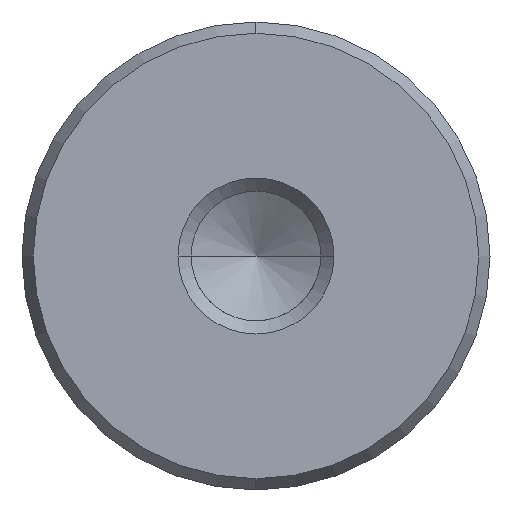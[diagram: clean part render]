
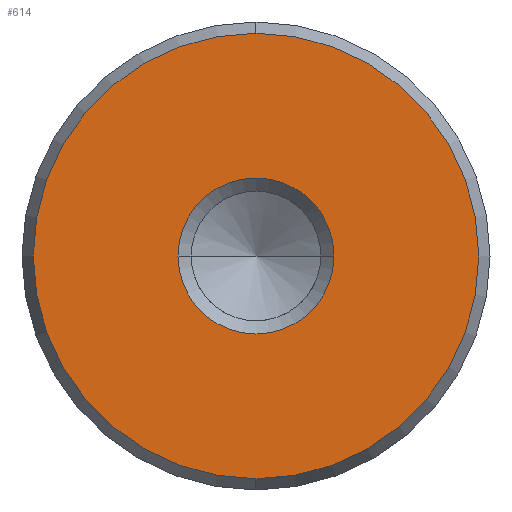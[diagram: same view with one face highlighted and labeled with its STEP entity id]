
A CAD part, left-side view. The second image highlights one B-rep face of the part: STEP entity #614.
In plain terms, the highlighted planar face has unit normal (-1, 0, 0).
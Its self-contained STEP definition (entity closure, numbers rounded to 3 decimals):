
#528=CARTESIAN_POINT('Vertex',(0.,0.,-11.423)) ;
#531=CARTESIAN_POINT('Axis2P3D Location',(0.,0.,0.)) ;
#535=CARTESIAN_POINT('Vertex',(0.,11.423,0.)) ;
#538=CARTESIAN_POINT('Axis2P3D Location',(0.,0.,0.)) ;
#542=CARTESIAN_POINT('Vertex',(0.,0.,11.423)) ;
#564=CARTESIAN_POINT('Axis2P3D Location',(0.,0.,0.)) ;
#568=CARTESIAN_POINT('Vertex',(0.,-11.423,0.)) ;
#571=CARTESIAN_POINT('Axis2P3D Location',(0.,0.,0.)) ;
#585=CARTESIAN_POINT('Axis2P3D Location',(0.,0.,0.)) ;
#596=CARTESIAN_POINT('Axis2P3D Location',(0.,0.,0.)) ;
#600=CARTESIAN_POINT('Vertex',(0.,4.,0.)) ;
#602=CARTESIAN_POINT('Vertex',(0.,-4.,0.)) ;
#605=CARTESIAN_POINT('Axis2P3D Location',(0.,0.,0.)) ;
#532=DIRECTION('Axis2P3D Direction',(1.,0.,-0.)) ;
#539=DIRECTION('Axis2P3D Direction',(1.,0.,-0.)) ;
#565=DIRECTION('Axis2P3D Direction',(1.,0.,-0.)) ;
#572=DIRECTION('Axis2P3D Direction',(1.,0.,-0.)) ;
#586=DIRECTION('Axis2P3D Direction',(1.,0.,-0.)) ;
#587=DIRECTION('Axis2P3D XDirection',(-0.,0.,-1.)) ;
#597=DIRECTION('Axis2P3D Direction',(1.,0.,-0.)) ;
#606=DIRECTION('Axis2P3D Direction',(1.,0.,-0.)) ;
#533=AXIS2_PLACEMENT_3D('Circle Axis2P3D',#531,#532,$) ;
#540=AXIS2_PLACEMENT_3D('Circle Axis2P3D',#538,#539,$) ;
#566=AXIS2_PLACEMENT_3D('Circle Axis2P3D',#564,#565,$) ;
#573=AXIS2_PLACEMENT_3D('Circle Axis2P3D',#571,#572,$) ;
#588=AXIS2_PLACEMENT_3D('Plane Axis2P3D',#585,#586,#587) ;
#598=AXIS2_PLACEMENT_3D('Circle Axis2P3D',#596,#597,$) ;
#607=AXIS2_PLACEMENT_3D('Circle Axis2P3D',#605,#606,$) ;
#591=ORIENTED_EDGE('',*,*,#537,.F.) ;
#592=ORIENTED_EDGE('',*,*,#575,.F.) ;
#593=ORIENTED_EDGE('',*,*,#570,.F.) ;
#594=ORIENTED_EDGE('',*,*,#544,.F.) ;
#611=ORIENTED_EDGE('',*,*,#604,.T.) ;
#612=ORIENTED_EDGE('',*,*,#609,.T.) ;
#613=FACE_BOUND('',#610,.T.) ;
#614=ADVANCED_FACE('720-24x280',(#595,#613),#589,.F.) ;
#534=CIRCLE('generated circle',#533,11.423) ;
#541=CIRCLE('generated circle',#540,11.423) ;
#567=CIRCLE('generated circle',#566,11.423) ;
#574=CIRCLE('generated circle',#573,11.423) ;
#599=CIRCLE('generated circle',#598,4.) ;
#608=CIRCLE('generated circle',#607,4.) ;
#537=EDGE_CURVE('',#529,#536,#534,.T.) ;
#544=EDGE_CURVE('',#536,#543,#541,.T.) ;
#570=EDGE_CURVE('',#543,#569,#567,.T.) ;
#575=EDGE_CURVE('',#569,#529,#574,.T.) ;
#604=EDGE_CURVE('',#601,#603,#599,.T.) ;
#609=EDGE_CURVE('',#603,#601,#608,.T.) ;
#590=EDGE_LOOP('',(#591,#592,#593,#594)) ;
#610=EDGE_LOOP('',(#611,#612)) ;
#595=FACE_OUTER_BOUND('',#590,.T.) ;
#589=PLANE('Plane',#588) ;
#529=VERTEX_POINT('',#528) ;
#536=VERTEX_POINT('',#535) ;
#543=VERTEX_POINT('',#542) ;
#569=VERTEX_POINT('',#568) ;
#601=VERTEX_POINT('',#600) ;
#603=VERTEX_POINT('',#602) ;
